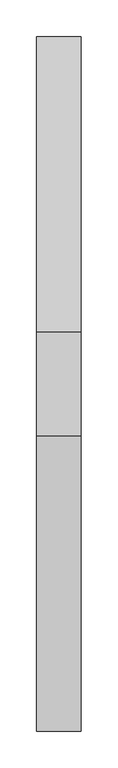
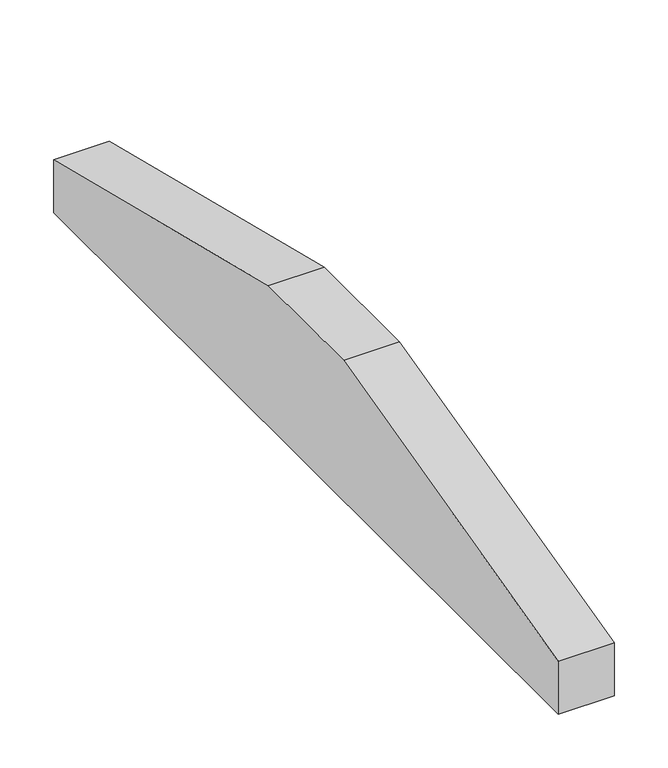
"""IFC4 building model written with IfcOpenShell, lengths in millimetres: proxy geometry, Modelos genéricos 160 : Modelos genéricos 144."""

from ifc_helpers import new_model, si_unit, frame, origin, place, context, project, spatial, polyline, outline, extrude, source, transform, mapped, element, save


def generic_models_0c30a77b(model_context):
    return source(origin(), model_context, "Body", "SweptSolid", [
        extrude(outline(polyline([(2018.6238165, 4209.7515316), (2418.6238165, 4110.0203305), (2418.6238165, 4049.7515316), (1478.6238165, 4049.7515316), (1478.6238165, 4110.0203305), (1878.6238165, 4209.7515316), (2018.6238165, 4209.7515316)])), frame((47913.4472467, 0.0, 0.0), z_axis=(1.0, 0.0, 0.0), x_axis=(0.0, 1.0, 0.0)), (0.0, 0.0, 1.0), 60.0),
    ])


if __name__ == "__main__":
    model = new_model("IFC4")
    model_context = context("Model", 3, world=origin())
    ifc_project = project(units=[si_unit("LENGTHUNIT", "METRE", prefix="MILLI")], contexts=[model_context])
    site = spatial("IfcSite", under=ifc_project)
    building = spatial("IfcBuilding", under=site)
    placement = place(None, origin())
    generic_models_shape = generic_models_0c30a77b(model_context)
    element("IfcBuildingElementProxy", 1, Name="Modelos genéricos 160 : Modelos genéricos 144", ObjectType="Modelos genéricos 160 : Modelos genéricos 144", at=placement, inside=building, context=model_context, shape_type="MappedRepresentation", body=[
        mapped(generic_models_shape, transform((0.0, 0.0, 0.0), x_axis=(1.0, 0.0, 0.0), y_axis=(0.0, 1.0, 0.0), z_axis=(0.0, 0.0, 1.0))),
    ])
    save(model, "model.ifc")
